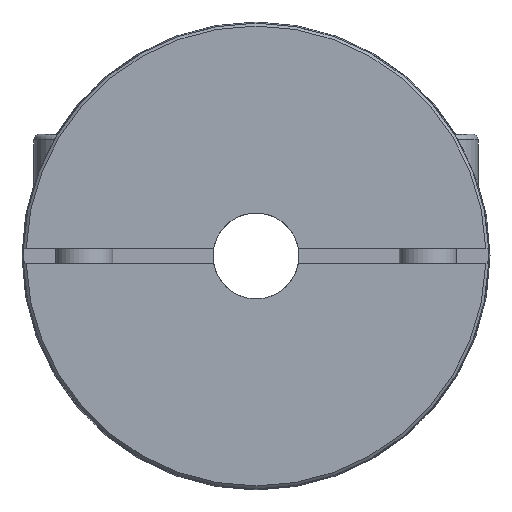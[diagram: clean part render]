
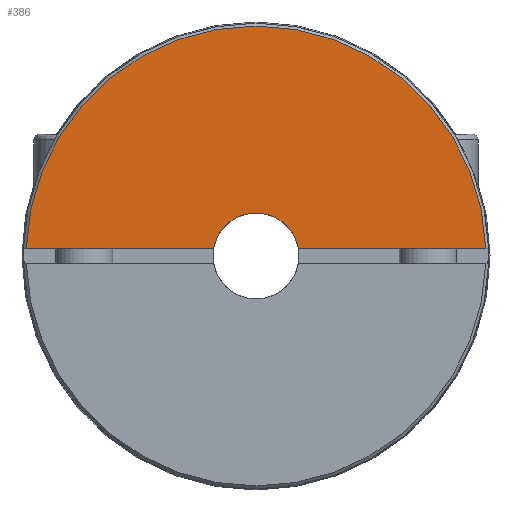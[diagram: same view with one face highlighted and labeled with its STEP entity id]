
A CAD part, left-side view. The second image highlights one B-rep face of the part: STEP entity #386.
In plain terms, the highlighted planar face has unit normal (-1, 0, 0) as drawn and (1, 0, 0) by its records, which use the part's own axes.
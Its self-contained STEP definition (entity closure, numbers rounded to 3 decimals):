
#386 = ADVANCED_FACE( '', ( #807 ), #808, .T. );
#807 = FACE_OUTER_BOUND( '', #1318, .T. );
#808 = PLANE( '', #1319 );
#1318 = EDGE_LOOP( '', ( #1963, #1964, #1965, #1966 ) );
#1319 = AXIS2_PLACEMENT_3D( '', #1967, #1968, #1969 );
#1963 = ORIENTED_EDGE( '', *, *, #2490, .F. );
#1964 = ORIENTED_EDGE( '', *, *, #2603, .T. );
#1965 = ORIENTED_EDGE( '', *, *, #2608, .F. );
#1966 = ORIENTED_EDGE( '', *, *, #2609, .T. );
#1967 = CARTESIAN_POINT( '', ( 13., 0., 16.25 ) );
#1968 = DIRECTION( '', ( 1., 0., 0. ) );
#1969 = DIRECTION( '', ( 0., 0., -1. ) );
#2490 = EDGE_CURVE( '', #2828, #2830, #2831, .T. );
#2603 = EDGE_CURVE( '', #2828, #2993, #2996, .T. );
#2608 = EDGE_CURVE( '', #3002, #2993, #3003, .T. );
#2609 = EDGE_CURVE( '', #3002, #2830, #3004, .T. );
#2828 = VERTEX_POINT( '', #3322 );
#2830 = VERTEX_POINT( '', #3327 );
#2831 = LINE( '', #3328, #3329 );
#2993 = VERTEX_POINT( '', #3617 );
#2996 = CIRCLE( '', #3623, 16.05 );
#3002 = VERTEX_POINT( '', #3629 );
#3003 = LINE( '', #3630, #3631 );
#3004 = CIRCLE( '', #3632, 3. );
#3322 = CARTESIAN_POINT( '', ( 13., 16.042, 0.5 ) );
#3327 = CARTESIAN_POINT( '', ( 13., 2.958, 0.5 ) );
#3328 = CARTESIAN_POINT( '', ( 13., 0., 0.5 ) );
#3329 = VECTOR( '', #3961, 1000. );
#3617 = CARTESIAN_POINT( '', ( 13., -16.042, 0.5 ) );
#3623 = AXIS2_PLACEMENT_3D( '', #4129, #4130, #4131 );
#3629 = CARTESIAN_POINT( '', ( 13., -2.958, 0.5 ) );
#3630 = CARTESIAN_POINT( '', ( 13., 0., 0.5 ) );
#3631 = VECTOR( '', #4138, 1000. );
#3632 = AXIS2_PLACEMENT_3D( '', #4139, #4140, #4141 );
#3961 = DIRECTION( '', ( 0., -1., 0. ) );
#4129 = CARTESIAN_POINT( '', ( 13., 0., 0. ) );
#4130 = DIRECTION( '', ( 1., 0., 0. ) );
#4131 = DIRECTION( '', ( 0., 0., -1. ) );
#4138 = DIRECTION( '', ( 0., -1., 0. ) );
#4139 = CARTESIAN_POINT( '', ( 13., 0., 0. ) );
#4140 = DIRECTION( '', ( -1., 0., 0. ) );
#4141 = DIRECTION( '', ( 0., 0., 1. ) );
